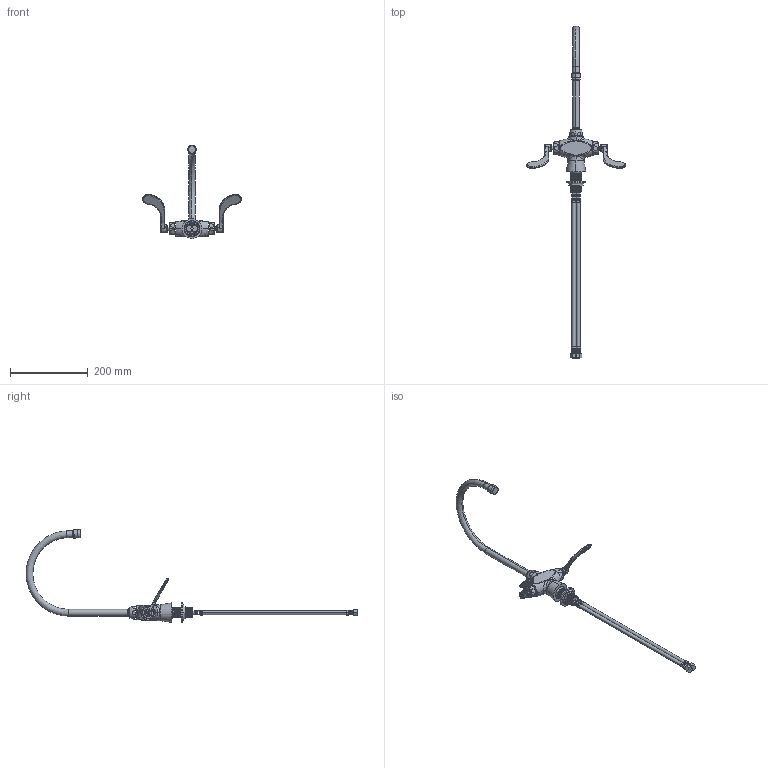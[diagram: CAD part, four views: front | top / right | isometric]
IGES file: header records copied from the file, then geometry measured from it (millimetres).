
Start section:  PTC IGES file: 50-gn8ae35-317xkab_REV042516.igs
Global section: file name: 50-gn8ae35-317xkab_REV042516.igs; native system: Creo Parametric by PTC Inc.; preprocessor: 2014500; author: dmisv; organization: Unknown; date: 20160425.145343; units: inch
Bounding box: 254 x 853.76 x 239.59 mm (x, y, z)
Surface area: 112325.2 mm2 (no closed solid volume)
Topology: 0 solids, 60 shells, 415 faces, 1310 edges, 936 vertices
Faces by surface type: revolution 223, bspline 192
